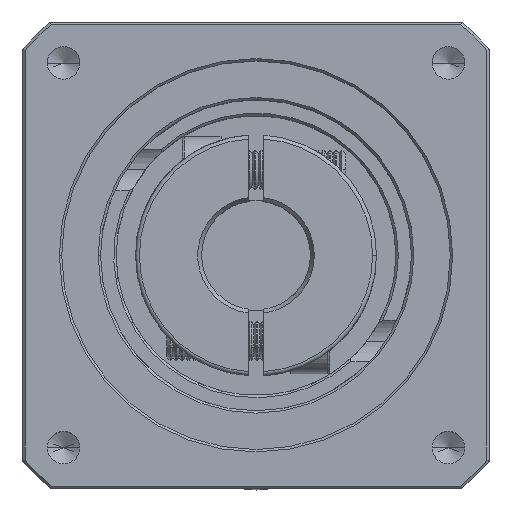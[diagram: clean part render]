
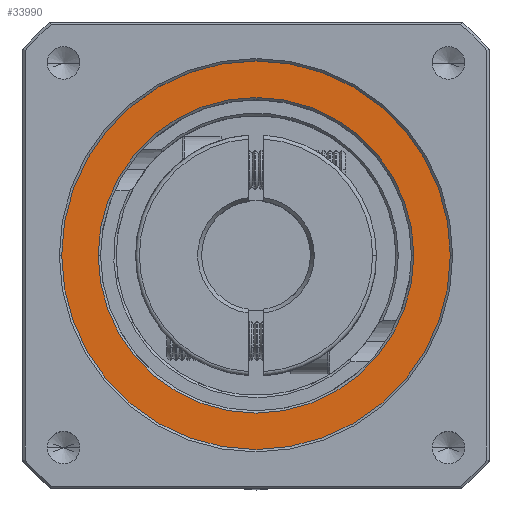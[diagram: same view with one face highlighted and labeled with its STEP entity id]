
A CAD part, top view. The second image highlights one B-rep face of the part: STEP entity #33990.
In plain terms, the highlighted planar face has unit normal (0, 0, 1).
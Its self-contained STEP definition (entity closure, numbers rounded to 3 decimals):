
#937 = CARTESIAN_POINT ( 'NONE',  ( -68.862, 23.581, 10.521 ) ) ;
#970 = VERTEX_POINT ( 'NONE', #67382 ) ;
#3294 = VERTEX_POINT ( 'NONE', #92021 ) ;
#6783 = VERTEX_POINT ( 'NONE', #97661 ) ;
#8533 = DIRECTION ( 'NONE',  ( 1., 0., 0. ) ) ;
#9045 = CIRCLE ( 'NONE', #75517, 20.3 ) ;
#10127 = ORIENTED_EDGE ( 'NONE', *, *, #75250, .T. ) ;
#12635 = EDGE_CURVE ( 'NONE', #3294, #6783, #9045, .T. ) ;
#16476 = ORIENTED_EDGE ( 'NONE', *, *, #70604, .T. ) ;
#17505 = EDGE_CURVE ( 'NONE', #970, #95783, #36667, .T. ) ;
#18118 = AXIS2_PLACEMENT_3D ( 'NONE', #80938, #35824, #88362 ) ;
#18835 = CARTESIAN_POINT ( 'NONE',  ( -68.862, 23.581, 10.521 ) ) ;
#18956 = ORIENTED_EDGE ( 'NONE', *, *, #12635, .T. ) ;
#23741 = DIRECTION ( 'NONE',  ( 0., 0., -1. ) ) ;
#25887 = CARTESIAN_POINT ( 'NONE',  ( -43.862, 23.581, 10.521 ) ) ;
#26393 = DIRECTION ( 'NONE',  ( 1., 0., 0. ) ) ;
#29283 = AXIS2_PLACEMENT_3D ( 'NONE', #937, #53710, #8533 ) ;
#31442 = DIRECTION ( 'NONE',  ( 1., 0., 0. ) ) ;
#31523 = DIRECTION ( 'NONE',  ( 0., 0., -1. ) ) ;
#31539 = CARTESIAN_POINT ( 'NONE',  ( -68.862, 23.581, 10.521 ) ) ;
#31853 = AXIS2_PLACEMENT_3D ( 'NONE', #68957, #23741, #76483 ) ;
#33130 = EDGE_LOOP ( 'NONE', ( #10127, #49861 ) ) ;
#33990 = ADVANCED_FACE ( 'NONE', ( #46012, #68503 ), #50628, .T. ) ;
#35824 = DIRECTION ( 'NONE',  ( 0., 0., 1. ) ) ;
#36667 = CIRCLE ( 'NONE', #29283, 25. ) ;
#43415 = CIRCLE ( 'NONE', #31853, 20.3 ) ;
#43655 = CIRCLE ( 'NONE', #84314, 25. ) ;
#46012 = FACE_BOUND ( 'NONE', #92923, .T. ) ;
#49861 = ORIENTED_EDGE ( 'NONE', *, *, #17505, .T. ) ;
#50628 = PLANE ( 'NONE',  #18118 ) ;
#53710 = DIRECTION ( 'NONE',  ( 0., 0., 1. ) ) ;
#67382 = CARTESIAN_POINT ( 'NONE',  ( -93.862, 23.581, 10.521 ) ) ;
#68503 = FACE_OUTER_BOUND ( 'NONE', #33130, .T. ) ;
#68957 = CARTESIAN_POINT ( 'NONE',  ( -68.862, 23.581, 10.521 ) ) ;
#70604 = EDGE_CURVE ( 'NONE', #6783, #3294, #43415, .T. ) ;
#71667 = DIRECTION ( 'NONE',  ( 0., 0., 1. ) ) ;
#75250 = EDGE_CURVE ( 'NONE', #95783, #970, #43655, .T. ) ;
#75517 = AXIS2_PLACEMENT_3D ( 'NONE', #31539, #31523, #31442 ) ;
#76483 = DIRECTION ( 'NONE',  ( 1., 0., 0. ) ) ;
#80938 = CARTESIAN_POINT ( 'NONE',  ( -68.862, 23.581, 10.521 ) ) ;
#84314 = AXIS2_PLACEMENT_3D ( 'NONE', #18835, #71667, #26393 ) ;
#88362 = DIRECTION ( 'NONE',  ( 1., 0., 0. ) ) ;
#92021 = CARTESIAN_POINT ( 'NONE',  ( -89.162, 23.581, 10.521 ) ) ;
#92923 = EDGE_LOOP ( 'NONE', ( #16476, #18956 ) ) ;
#95783 = VERTEX_POINT ( 'NONE', #25887 ) ;
#97661 = CARTESIAN_POINT ( 'NONE',  ( -48.562, 23.581, 10.521 ) ) ;
